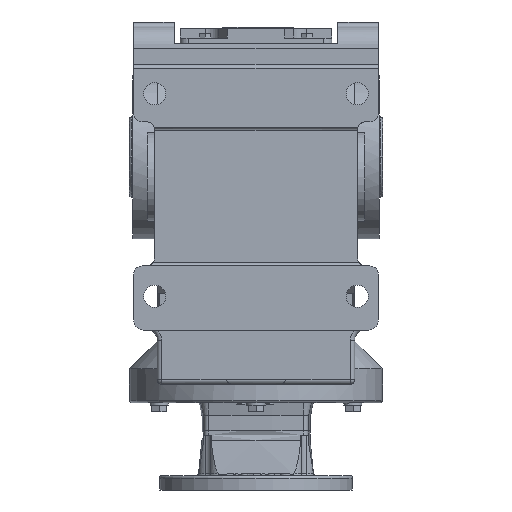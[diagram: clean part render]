
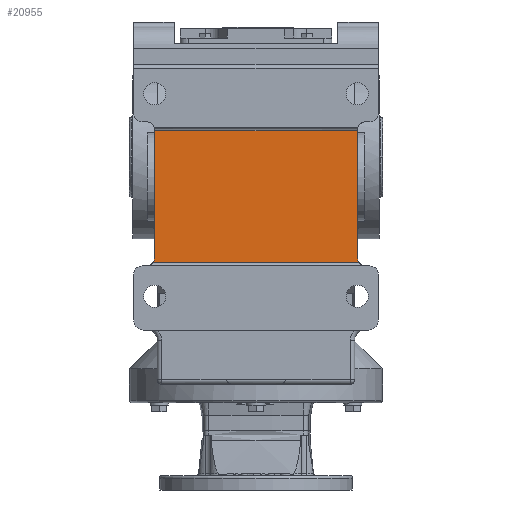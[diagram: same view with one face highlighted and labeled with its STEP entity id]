
A CAD part, front view. The second image highlights one B-rep face of the part: STEP entity #20955.
In plain terms, the highlighted planar face has unit normal (0, -1, 0).
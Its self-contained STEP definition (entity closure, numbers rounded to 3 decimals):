
#101 = AXIS2_PLACEMENT_3D ( 'NONE', #8431, #8436, #8437 ) ;
#3225 = FACE_OUTER_BOUND ( 'NONE', #32851, .T. ) ;
#5460 = CARTESIAN_POINT ( 'NONE',  ( 120., -260., 31. ) ) ;
#5469 = CARTESIAN_POINT ( 'NONE',  ( -122., -260., -125. ) ) ;
#5475 = CARTESIAN_POINT ( 'NONE',  ( 122., -260., -125. ) ) ;
#5480 = CARTESIAN_POINT ( 'NONE',  ( -120., -260., 31. ) ) ;
#5483 = CARTESIAN_POINT ( 'NONE',  ( -120., -260., -119. ) ) ;
#5490 = CARTESIAN_POINT ( 'NONE',  ( 120., -260., -119. ) ) ;
#7381 = ORIENTED_EDGE ( 'NONE', *, *, #40012, .F. ) ;
#7382 = ORIENTED_EDGE ( 'NONE', *, *, #39878, .F. ) ;
#7383 = ORIENTED_EDGE ( 'NONE', *, *, #40071, .T. ) ;
#7384 = ORIENTED_EDGE ( 'NONE', *, *, #40104, .T. ) ;
#7385 = ORIENTED_EDGE ( 'NONE', *, *, #39792, .T. ) ;
#7386 = ORIENTED_EDGE ( 'NONE', *, *, #40078, .F. ) ;
#8431 = CARTESIAN_POINT ( 'NONE',  ( -145., -260., 31. ) ) ;
#8433 = PLANE ( 'NONE',  #101 ) ;
#8436 = DIRECTION ( 'NONE',  ( 0., -1., 0. ) ) ;
#8437 = DIRECTION ( 'NONE',  ( 0., 0., -1. ) ) ;
#13297 = AXIS2_PLACEMENT_3D ( 'NONE', #32777, #32778, #32779 ) ;
#13346 = AXIS2_PLACEMENT_3D ( 'NONE', #34719, #34720, #34721 ) ;
#19098 = VERTEX_POINT ( 'NONE', #5460 ) ;
#19106 = VERTEX_POINT ( 'NONE', #5469 ) ;
#19110 = VERTEX_POINT ( 'NONE', #5475 ) ;
#19115 = VERTEX_POINT ( 'NONE', #5480 ) ;
#19118 = VERTEX_POINT ( 'NONE', #5483 ) ;
#19124 = VERTEX_POINT ( 'NONE', #5490 ) ;
#20955 = ADVANCED_FACE ( 'NONE', ( #3225 ), #8433, .T. ) ;
#30198 = CIRCLE ( 'NONE', #13297, 10. ) ;
#30288 = LINE ( 'NONE', #32983, #30290 ) ;
#30290 = VECTOR ( 'NONE', #32978, 1000. ) ;
#32777 = CARTESIAN_POINT ( 'NONE',  ( 130., -260., -119. ) ) ;
#32778 = DIRECTION ( 'NONE',  ( 0., 1., 0. ) ) ;
#32779 = DIRECTION ( 'NONE',  ( 0., 0., -1. ) ) ;
#32851 = EDGE_LOOP ( 'NONE', ( #7381, #7382, #7383, #7384, #7385, #7386 ) ) ;
#32978 = DIRECTION ( 'NONE',  ( 0., 0., 1. ) ) ;
#32983 = CARTESIAN_POINT ( 'NONE',  ( -120., -260., -125. ) ) ;
#33481 = CARTESIAN_POINT ( 'NONE',  ( -145., -260., 31. ) ) ;
#33483 = DIRECTION ( 'NONE',  ( 1., 0., 0. ) ) ;
#34369 = LINE ( 'NONE', #33481, #34372 ) ;
#34372 = VECTOR ( 'NONE', #33483, 1000. ) ;
#34447 = CIRCLE ( 'NONE', #13346, 10. ) ;
#34458 = LINE ( 'NONE', #34733, #34461 ) ;
#34461 = VECTOR ( 'NONE', #34734, 1000. ) ;
#34499 = LINE ( 'NONE', #34801, #34502 ) ;
#34502 = VECTOR ( 'NONE', #34802, 1000. ) ;
#34719 = CARTESIAN_POINT ( 'NONE',  ( -130., -260., -119. ) ) ;
#34720 = DIRECTION ( 'NONE',  ( 0., 1., 0. ) ) ;
#34721 = DIRECTION ( 'NONE',  ( 0., 0., -1. ) ) ;
#34733 = CARTESIAN_POINT ( 'NONE',  ( 120., -260., 31. ) ) ;
#34734 = DIRECTION ( 'NONE',  ( 0., 0., -1. ) ) ;
#34801 = CARTESIAN_POINT ( 'NONE',  ( -145., -260., -125. ) ) ;
#34802 = DIRECTION ( 'NONE',  ( 1., 0., 0. ) ) ;
#39792 = EDGE_CURVE ( 'NONE', #19110, #19124, #30198, .T. ) ;
#39878 = EDGE_CURVE ( 'NONE', #19118, #19115, #30288, .T. ) ;
#40012 = EDGE_CURVE ( 'NONE', #19115, #19098, #34369, .T. ) ;
#40071 = EDGE_CURVE ( 'NONE', #19118, #19106, #34447, .T. ) ;
#40078 = EDGE_CURVE ( 'NONE', #19098, #19124, #34458, .T. ) ;
#40104 = EDGE_CURVE ( 'NONE', #19106, #19110, #34499, .T. ) ;
